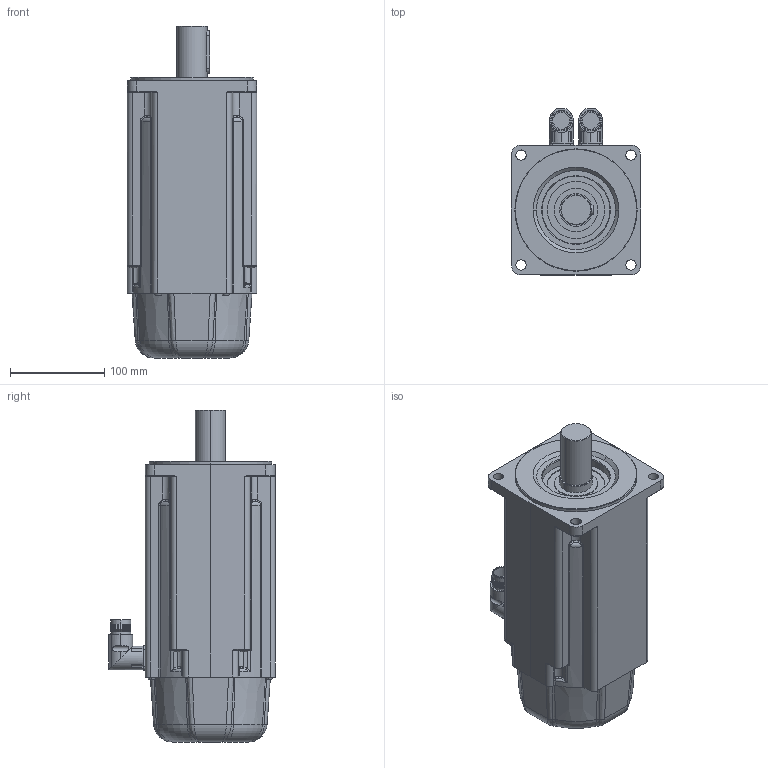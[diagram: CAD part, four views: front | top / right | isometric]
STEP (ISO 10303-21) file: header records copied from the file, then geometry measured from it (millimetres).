
FILE_DESCRIPTION (( 'STEP AP214' ), '1' );
FILE_NAME ('AKC-INT030665045334.step', '2009-03-06T11:50:22', ( 'SysAdmin' ), ( 'SolidWorks' ), 'SwSTEP 2.0', 'SolidWorks 2009', '' );
FILE_SCHEMA (( 'AUTOMOTIVE_DESIGN' ));
Length unit declared in the file: millimetre
Products named in the file (1): AKC-INT030665045334
Bounding box: 138 x 177 x 352.7 mm (x, y, z)
Volume: 4626852.9 mm3; surface area: 197935 mm2
Topology: 1 solids, 1 shells, 634 faces, 1545 edges, 907 vertices
Faces by surface type: cylinder 209, plane 119, cone 118, bspline 116, torus 72
Entity records: 30425 total; most frequent: CARTESIAN_POINT 9601, ORIENTED_EDGE 3026, DIRECTION 2820, EDGE_CURVE 1513, AXIS2_PLACEMENT_3D 1208, VERTEX_POINT 907, CIRCLE 689, EDGE_LOOP 668
